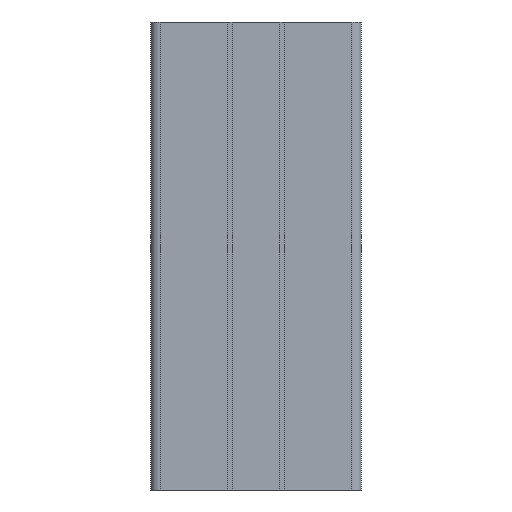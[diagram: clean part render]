
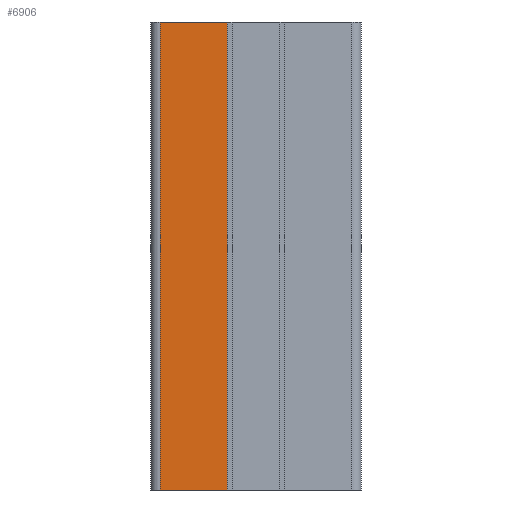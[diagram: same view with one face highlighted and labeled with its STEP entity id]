
A CAD part, front view. The second image highlights one B-rep face of the part: STEP entity #6906.
In plain terms, the highlighted planar face has unit normal (0, -1, 0).
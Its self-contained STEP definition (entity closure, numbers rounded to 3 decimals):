
#73 = FACE_OUTER_BOUND ( 'NONE', #1515, .T. ) ;
#98 = ORIENTED_EDGE ( 'NONE', *, *, #1994, .T. ) ;
#348 = LINE ( 'NONE', #2949, #2009 ) ;
#786 = VERTEX_POINT ( 'NONE', #5654 ) ;
#1073 = CARTESIAN_POINT ( 'NONE',  ( -20.5, -22.5, -100. ) ) ;
#1216 = LINE ( 'NONE', #6782, #2735 ) ;
#1515 = EDGE_LOOP ( 'NONE', ( #5760, #7836, #98, #2759 ) ) ;
#1614 = LINE ( 'NONE', #7029, #4871 ) ;
#1765 = CARTESIAN_POINT ( 'NONE',  ( -20.5, -22.5, -100. ) ) ;
#1994 = EDGE_CURVE ( 'NONE', #4038, #6948, #6493, .T. ) ;
#2009 = VECTOR ( 'NONE', #5908, 1000. ) ;
#2491 = DIRECTION ( 'NONE',  ( 0., -1., 0. ) ) ;
#2583 = DIRECTION ( 'NONE',  ( 1., 0., 0. ) ) ;
#2735 = VECTOR ( 'NONE', #2583, 1000. ) ;
#2759 = ORIENTED_EDGE ( 'NONE', *, *, #3301, .T. ) ;
#2793 = VERTEX_POINT ( 'NONE', #5199 ) ;
#2861 = DIRECTION ( 'NONE',  ( 0., 0., 1. ) ) ;
#2949 = CARTESIAN_POINT ( 'NONE',  ( 22.5, -22.5, -100. ) ) ;
#3301 = EDGE_CURVE ( 'NONE', #6948, #2793, #348, .T. ) ;
#4038 = VERTEX_POINT ( 'NONE', #4190 ) ;
#4190 = CARTESIAN_POINT ( 'NONE',  ( -20.5, -22.5, 0. ) ) ;
#4695 = EDGE_CURVE ( 'NONE', #4038, #786, #1216, .T. ) ;
#4868 = CARTESIAN_POINT ( 'NONE',  ( 22.5, -22.5, -100. ) ) ;
#4871 = VECTOR ( 'NONE', #2861, 1000. ) ;
#4904 = VECTOR ( 'NONE', #6024, 1000. ) ;
#4905 = PLANE ( 'NONE',  #6340 ) ;
#5039 = EDGE_CURVE ( 'NONE', #2793, #786, #1614, .T. ) ;
#5199 = CARTESIAN_POINT ( 'NONE',  ( -6.1, -22.5, -100. ) ) ;
#5654 = CARTESIAN_POINT ( 'NONE',  ( -6.1, -22.5, 0. ) ) ;
#5760 = ORIENTED_EDGE ( 'NONE', *, *, #5039, .T. ) ;
#5908 = DIRECTION ( 'NONE',  ( 1., 0., 0. ) ) ;
#6024 = DIRECTION ( 'NONE',  ( 0., 0., -1. ) ) ;
#6340 = AXIS2_PLACEMENT_3D ( 'NONE', #4868, #2491, #6693 ) ;
#6493 = LINE ( 'NONE', #1765, #4904 ) ;
#6693 = DIRECTION ( 'NONE',  ( 1., 0., 0. ) ) ;
#6782 = CARTESIAN_POINT ( 'NONE',  ( 22.5, -22.5, 0. ) ) ;
#6906 = ADVANCED_FACE ( 'NONE', ( #73 ), #4905, .T. ) ;
#6948 = VERTEX_POINT ( 'NONE', #1073 ) ;
#7029 = CARTESIAN_POINT ( 'NONE',  ( -6.1, -22.5, -100. ) ) ;
#7836 = ORIENTED_EDGE ( 'NONE', *, *, #4695, .F. ) ;
